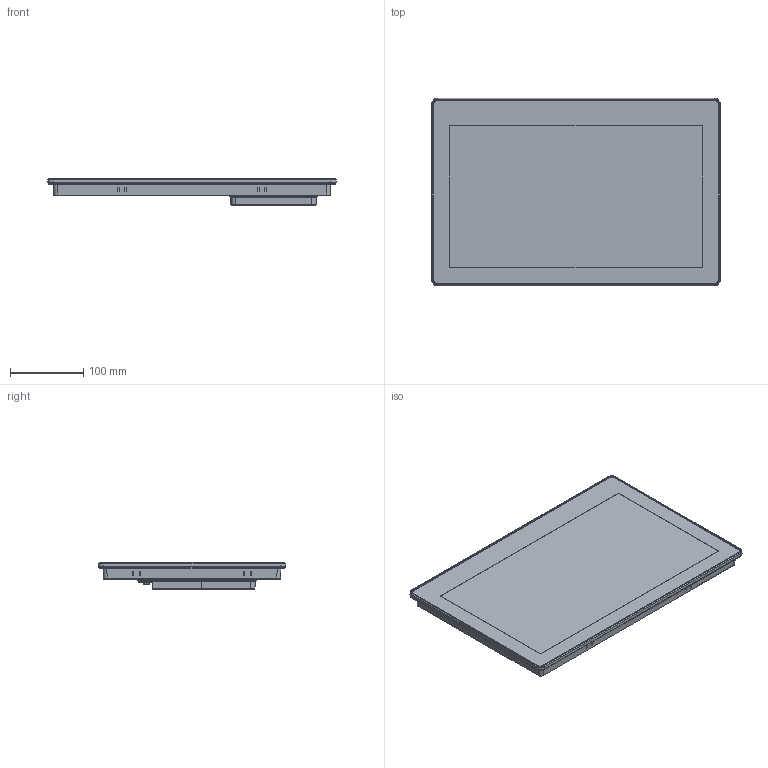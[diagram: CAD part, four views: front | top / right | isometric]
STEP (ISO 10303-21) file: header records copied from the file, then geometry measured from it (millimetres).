
FILE_DESCRIPTION((''),'2;1');
FILE_NAME('ASM_1_1','2022-04-14T14:44:28',('Lenovo'),(''),'CREO PARAMETRIC BY PTC INC, 2020033','CREO PARAMETRIC BY PTC INC, 2020033','');
FILE_SCHEMA(('CONFIG_CONTROL_DESIGN'));
Length unit declared in the file: millimetre
Products named in the file (1): ASM_1_1
Bounding box: 394 x 256 x 35.6 mm (x, y, z)
Volume: 2201452.6 mm3; surface area: 279522.5 mm2
Topology: 1 solids, 29 shells, 1158 faces, 2940 edges, 1903 vertices
Faces by surface type: plane 810, cylinder 219, cone 64, bspline 31, torus 28, sphere 6
Entity records: 35961 total; most frequent: CARTESIAN_POINT 7871, ORIENTED_EDGE 5868, DIRECTION 5624, EDGE_CURVE 2934, VECTOR 2202, LINE 2202, VERTEX_POINT 1903, AXIS2_PLACEMENT_3D 1711
